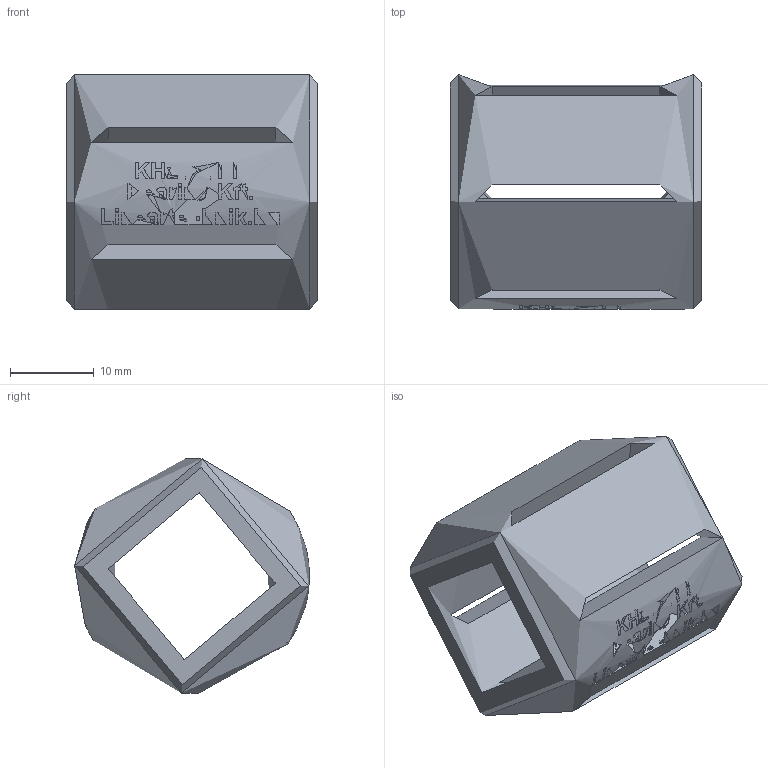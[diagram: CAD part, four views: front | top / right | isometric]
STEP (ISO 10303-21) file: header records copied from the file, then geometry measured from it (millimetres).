
FILE_DESCRIPTION(/* description */ (''),/* implementation_level */ '2;1');
FILE_NAME(/* name */ 'KH2030PP',/* time_stamp */ '2019-07-11T11:31:29+02:00',/* author */ ('VĂ©gh MĂˇtĂ©'),/* organization */ ('Bearing Kft'),/* preprocessor_version */ 'ST-DEVELOPER v16.7',/* originating_system */ 'DEX',/* authorisation */ $);
FILE_SCHEMA (('AUTOMOTIVE_DESIGN {1 0 10303 214 3 1 1}'));
Length unit declared in the file: millimetre
Products named in the file (1): KH2030PP
Bounding box: 30 x 27.95 x 27.96 mm (x, y, z)
Topology: 0 solids, 3 shells, 339 faces, 865 edges, 577 vertices
Faces by surface type: plane 172, bspline 101, cylinder 64, torus 2
Full cylindrical faces by diameter (mm): 20 x1, 27.8 x1, 28 x1
Entity records: 16360 total; most frequent: CARTESIAN_POINT 8730, ORIENTED_EDGE 1702, DIRECTION 1255, EDGE_CURVE 851, VERTEX_POINT 573, LINE 471, VECTOR 471, EDGE_LOOP 412
